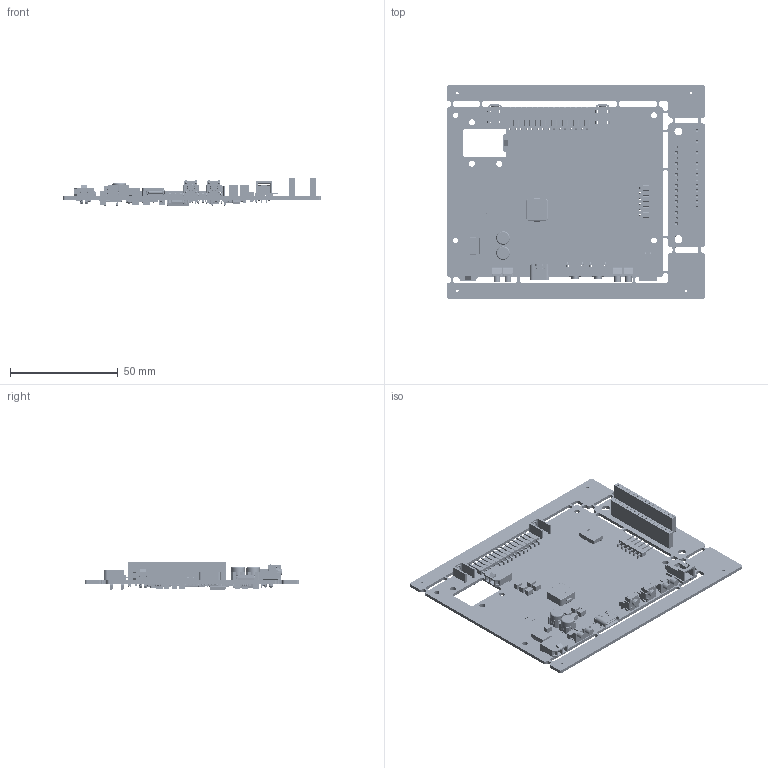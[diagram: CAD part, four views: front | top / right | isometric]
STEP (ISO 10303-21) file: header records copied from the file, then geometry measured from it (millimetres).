
FILE_DESCRIPTION(('KiCad electronic assembly'),'2;1');
FILE_NAME('TVS-Adapter-v1.step','2026-11-19T20:47:13',('Pcbnew'),( 'Kicad'),'Open CASCADE STEP processor 7.9','KiCad to STEP converter' ,'Unknown');
FILE_SCHEMA(('AUTOMOTIVE_DESIGN { 1 0 10303 214 1 1 1 1 }'));
Length unit declared in the file: millimetre
Products named in the file (141): TVS-Adapter-v1 1; PinHeader_1x06_P2.54mm_Horizontal; PinHeader_1x06_P254mm_Horizontal; TL1105VFxxxx; P:\E-Switch Secure\3D_MODELS_STP_FORMAT\TL1105VFxxxx.stp; Panasonic-EEE-FT1H470AV; ϐUi³6.3 SIZE CODE D; SIZE CODE D-001; SIZE CODE D-002; SIZE CODE D-003; SIZE CODE D-004; Bivar-SLP3-150-100-F; FACE; PinSocket_1x15_P2.54mm_Vertical; C_1210_3225Metric; Molex-436500200; 436500200wbm000_01; LED_1206_3216Metric; Molex-pico-lock-5040500491; 5040500491wbm000_01; D_SMC; keystone-PN7774; 7774; PinHeader_1x15_P2.54mm_Horizontal; PinHeader_1x15_P254mm_Horizontal; Molex-705550001; 705550001; SOLID; COMPOUND; GCT-usb4110-gf-a; 1; Inductor-WE-LHMI_1040+(rev1); Assem1; base; pin; C_0603_1608Metric; R_0603_1608Metric; C_0805_2012Metric; TI-TDSON-8-1; TDSON_8_1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
Assembly tree (296 placements, depth 4):
  TVS-Adapter-v1 1
    PinHeader_1x06_P2.54mm_Horizontal
      PinHeader_1x06_P254mm_Horizontal
    TL1105VFxxxx  x2
      P:\E-Switch Secure\3D_MODELS_STP_FORMAT\TL1105VFxxxx.stp
    Panasonic-EEE-FT1H470AV  x2
      ϐUi³6.3 SIZE CODE D
        SIZE CODE D-001
        SIZE CODE D-002
        SIZE CODE D-003  x2
        SIZE CODE D-004  x2
    Bivar-SLP3-150-100-F  x4
      FACE
      FACE
      FACE
      FACE
      FACE
      FACE
      FACE
      FACE
      FACE
      FACE
      FACE
      FACE
      FACE
      FACE
      FACE
      FACE
      FACE
      FACE
      FACE
      FACE
      FACE
      FACE
      FACE
      FACE
      FACE
      FACE
      FACE
      FACE
      FACE
      FACE
      FACE
      FACE
      FACE
      FACE
      FACE
      FACE
      FACE
      FACE
      FACE
      FACE
      FACE
      FACE
      FACE
      FACE
      FACE
      FACE
      FACE
      FACE
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Bounding box: 119.58 x 99.23 x 13.07 mm (x, y, z)
Volume: 21826 mm3; surface area: 37190.8 mm2
Topology: 195 solids, 461 shells, 11410 faces, 31372 edges, 20914 vertices
Faces by surface type: plane 7919, cylinder 2643, bspline 636, revolution 108, cone 40, torus 32, sphere 20, extrusion 12
Full cylindrical faces by diameter (mm): 0.3 x18, 0.5 x6, 0.65 x2, 0.991 x4, 1 x51, 1.02 x4, 1.067 x2, 1.152 x4, 1.295 x4, 1.321 x8, 1.575 x8, 2.5 x2, 2.794 x5, 3 x2, 3.4 x2, 3.5 x2, 3.7 x2, 5 x2
Entity records: 209691 total; most frequent: CARTESIAN_POINT 35059, ORIENTED_EDGE 29979, DIRECTION 27873, EDGE_CURVE 15224, VECTOR 11906, LINE 11894, VERTEX_POINT 9943, AXIS2_PLACEMENT_3D 7970
